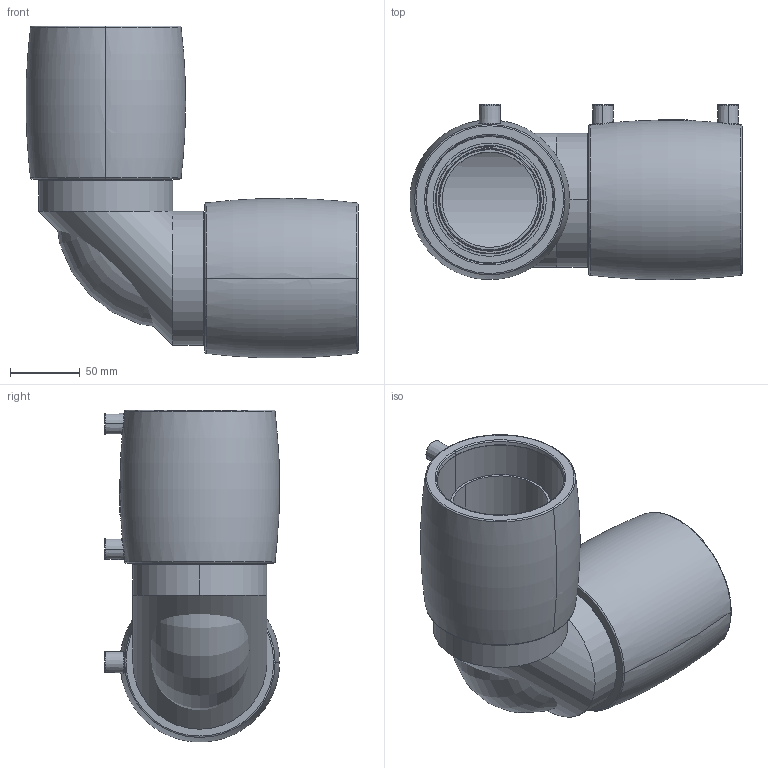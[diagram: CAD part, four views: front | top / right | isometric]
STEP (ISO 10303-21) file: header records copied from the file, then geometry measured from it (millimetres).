
FILE_DESCRIPTION (( 'STEP AP214' ), '1' );
FILE_NAME ('KP_23-90EC.STEP', '2013-03-13T10:26:13', ( '' ), ( '' ), 'SwSTEP 2.0', 'SolidWorks 2012', '' );
FILE_SCHEMA (( 'AUTOMOTIVE_DESIGN' ));
Length unit declared in the file: millimetre
Products named in the file (1): KP_23-90EC
Bounding box: 238.6 x 125.71 x 238.6 mm (x, y, z)
Volume: 746759 mm3; surface area: 363606.3 mm2
Topology: 1 solids, 9 shells, 1137 faces, 2884 edges, 1885 vertices
Faces by surface type: plane 578, bspline 246, torus 125, cylinder 112, cone 72, sphere 4
Entity records: 50624 total; most frequent: CARTESIAN_POINT 24429, ORIENTED_EDGE 5756, DIRECTION 4070, EDGE_CURVE 2878, VERTEX_POINT 1885, AXIS2_PLACEMENT_3D 1430, EDGE_LOOP 1273, LINE 1210
